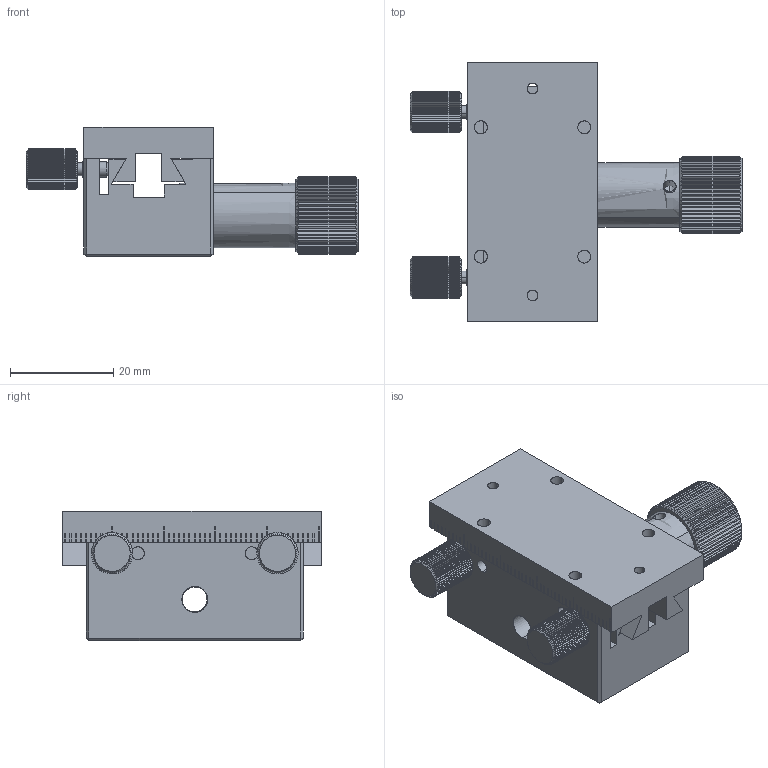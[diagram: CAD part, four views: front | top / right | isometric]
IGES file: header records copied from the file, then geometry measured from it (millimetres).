
Start section: SolidWorks IGES file using analytic representation for surfaces
Bounding box: 64.21 x 50 x 25 mm (x, y, z)
Surface area: 16288.1 mm2 (no closed solid volume)
Topology: 0 solids, 0 shells, 1039 faces, 7550 edges, 7530 vertices
Faces by surface type: bspline 629, revolution 410
